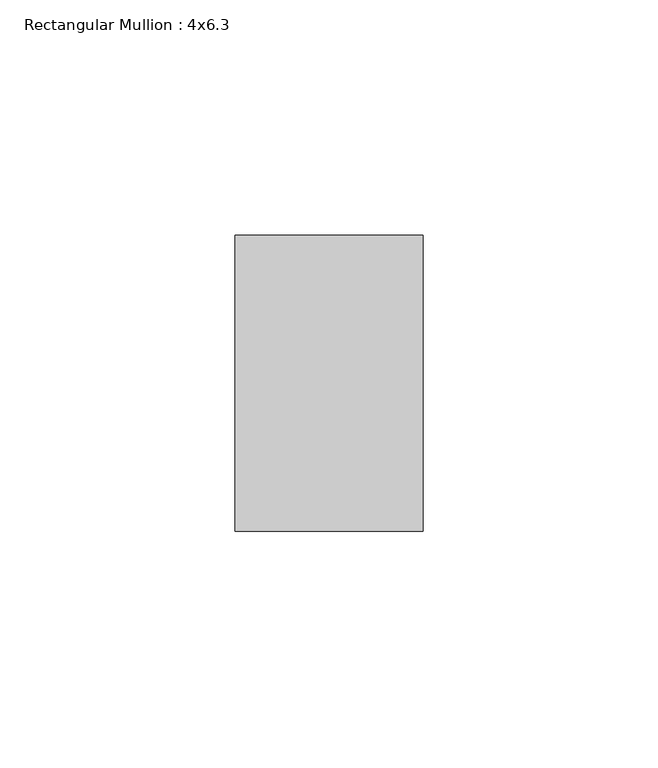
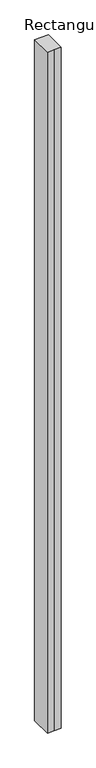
"""IFC4 building model written with IfcOpenShell, lengths in millimetres: member geometry, Rectangular Mullion : 4x6.3."""

from ifc_helpers import new_model, si_unit, frame, origin, place, context, project, spatial, polyline, outline, extrude, source, transform, mapped, element, save


def rectangular_mullion_4x6_3_b0d4d9c6(model_context):
    return source(origin(), model_context, "Body", "SweptSolid", [
        extrude(outline(polyline([(-20.0, 20.0), (-20.0, 83.0), (20.0, 83.0), (20.0, 20.0), (0.0, 20.0), (-20.0, 20.0)])), frame((0.0, 0.0, -2072.2866359), z_axis=(0.0, 0.0, 1.0), x_axis=(1.0, 0.0, 0.0)), (0.0, 0.0, 1.0), 2072.2866359),
    ])


if __name__ == "__main__":
    model = new_model("IFC4")
    model_context = context("Model", 3, world=origin())
    ifc_project = project(units=[si_unit("LENGTHUNIT", "METRE", prefix="MILLI")], contexts=[model_context])
    site = spatial("IfcSite", under=ifc_project)
    building = spatial("IfcBuilding", under=site)
    placement = place(None, origin())
    rectangular_mullion_4x6_3_shape = rectangular_mullion_4x6_3_b0d4d9c6(model_context)
    element("IfcMember", 1, ObjectType="Rectangular Mullion : 4x6.3", at=placement, inside=building, context=model_context, shape_type="MappedRepresentation", body=[
        mapped(rectangular_mullion_4x6_3_shape, transform((0.0, 0.0, 0.0), x_axis=(1.0, 0.0, 0.0), y_axis=(0.0, 1.0, 0.0), z_axis=(0.0, 0.0, 1.0))),
    ])
    save(model, "model.ifc")
